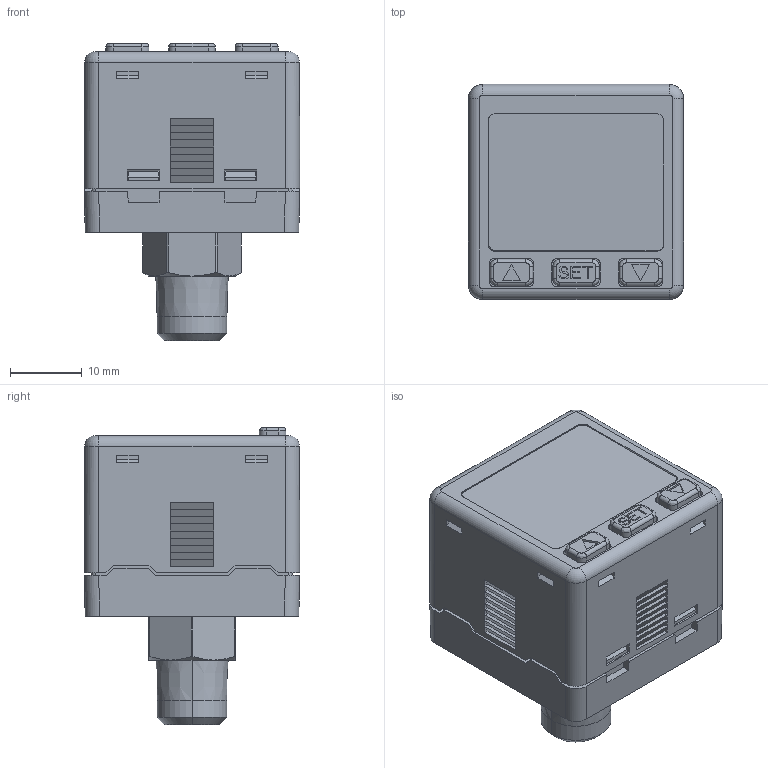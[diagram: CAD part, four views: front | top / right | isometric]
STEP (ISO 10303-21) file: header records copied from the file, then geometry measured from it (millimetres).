
FILE_DESCRIPTION (( 'STEP AP214' ), '1' );
FILE_NAME ('NP70.STEP', '2018-12-14T02:51:23', ( '' ), ( '' ), 'SwSTEP 2.0', 'SolidWorks 2012', '' );
FILE_SCHEMA (( 'AUTOMOTIVE_DESIGN' ));
Length unit declared in the file: millimetre
Products named in the file (1): NP70
Bounding box: 30.03 x 30 x 41.45 mm (x, y, z)
Volume: 22880.3 mm3; surface area: 7251.6 mm2
Topology: 1 solids, 1 shells, 772 faces, 1976 edges, 1235 vertices
Faces by surface type: plane 556, cylinder 115, bspline 50, cone 46, torus 5
Entity records: 25959 total; most frequent: CARTESIAN_POINT 8176, ORIENTED_EDGE 3924, DIRECTION 3205, EDGE_CURVE 1962, LINE 1493, VECTOR 1493, VERTEX_POINT 1235, AXIS2_PLACEMENT_3D 856
